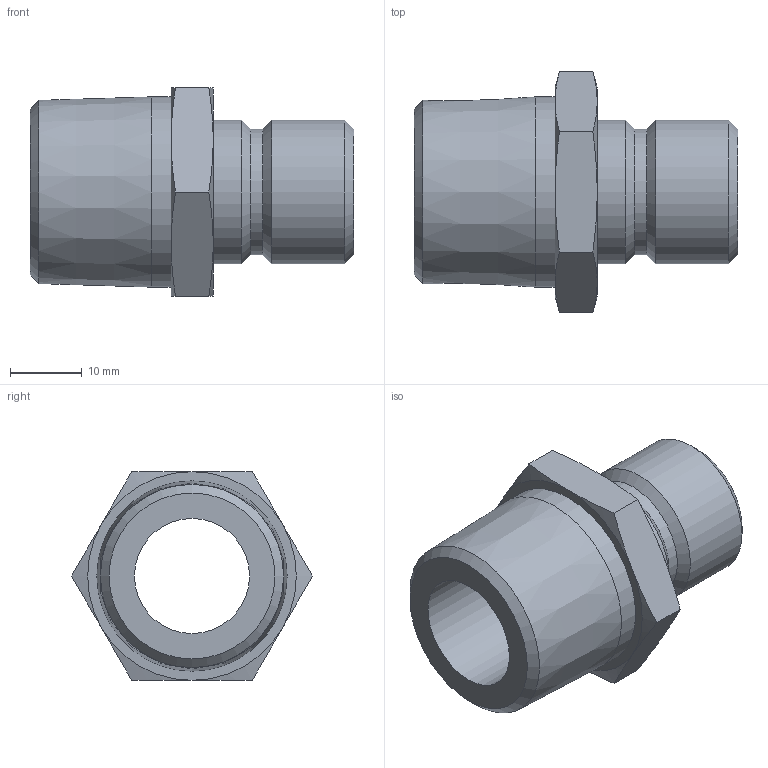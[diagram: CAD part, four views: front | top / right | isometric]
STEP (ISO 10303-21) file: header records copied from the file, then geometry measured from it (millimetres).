
FILE_DESCRIPTION(/* description */ ('STEP AP214'),/* implementation_level */ '2;1');
FILE_NAME(/* name */ 'N1634A',/* time_stamp */ '2024-12-19T09:29:56+01:00',/* author */ ('License CC BY-ND 4.0'),/* organization */ ('CADENAS'),/* preprocessor_version */ 'ST-DEVELOPER v19.3',/* originating_system */ 'PARTsolutions',/* authorisation */ ' ');
FILE_SCHEMA (('AUTOMOTIVE_DESIGN {1 0 10303 214 3 1 1}'));
Length unit declared in the file: millimetre
Products named in the file (1): N1634A
Bounding box: 45 x 33.49 x 29 mm (x, y, z)
Volume: 11398.4 mm3; surface area: 6588 mm2
Topology: 1 solids, 1 shells, 32 faces, 65 edges, 37 vertices
Faces by surface type: cone 17, plane 10, cylinder 5
Full cylindrical faces by diameter (mm): 16 x1, 17.44 x1, 20 x2, 26.441 x1
Entity records: 830 total; most frequent: CARTESIAN_POINT 197, DIRECTION 122, ORIENTED_EDGE 110, AXIS2_PLACEMENT_3D 58, EDGE_CURVE 55, EDGE_LOOP 46, FACE_BOUND 46, VERTEX_POINT 37
